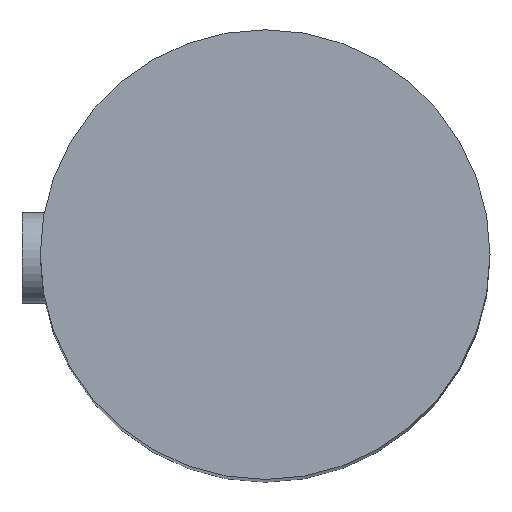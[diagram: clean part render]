
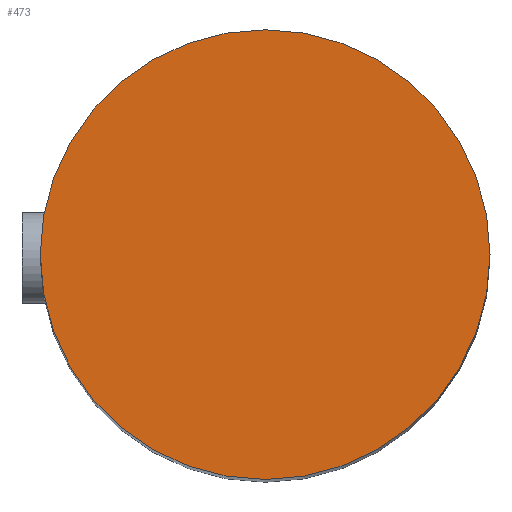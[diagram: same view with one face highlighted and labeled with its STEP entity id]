
A CAD part, top view. The second image highlights one B-rep face of the part: STEP entity #473.
In plain terms, the highlighted planar face has unit normal (0, 0, 1).
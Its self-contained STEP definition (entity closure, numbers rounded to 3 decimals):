
#36=PLANE('',#546);
#62=FACE_OUTER_BOUND('',#93,.T.);
#93=EDGE_LOOP('',(#400));
#186=CIRCLE('',#545,37.);
#227=VERTEX_POINT('',#982);
#285=EDGE_CURVE('',#227,#227,#186,.T.);
#400=ORIENTED_EDGE('',*,*,#285,.T.);
#473=ADVANCED_FACE('',(#62),#36,.T.);
#545=AXIS2_PLACEMENT_3D('',#983,#672,#673);
#546=AXIS2_PLACEMENT_3D('',#985,#675,#676);
#672=DIRECTION('center_axis',(0.,0.,1.));
#673=DIRECTION('ref_axis',(1.,0.,0.));
#675=DIRECTION('center_axis',(0.,0.,1.));
#676=DIRECTION('ref_axis',(1.,0.,0.));
#982=CARTESIAN_POINT('',(37.,0.,0.));
#983=CARTESIAN_POINT('Origin',(0.,0.,0.));
#985=CARTESIAN_POINT('Origin',(0.,0.,0.));
